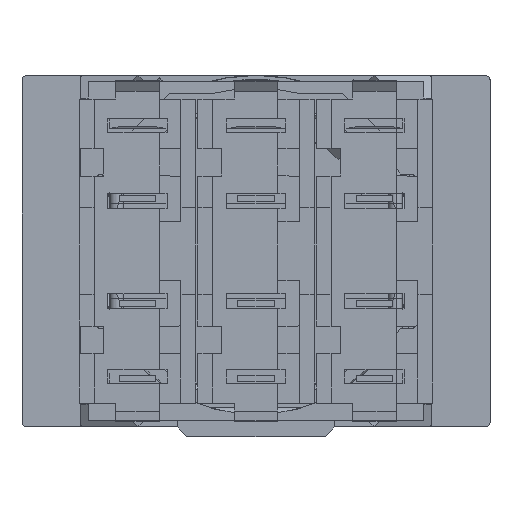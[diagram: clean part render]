
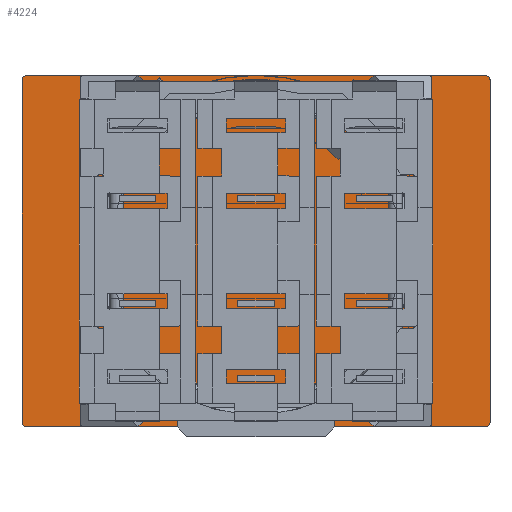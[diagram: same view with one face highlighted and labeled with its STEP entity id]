
A CAD part, front view. The second image highlights one B-rep face of the part: STEP entity #4224.
In plain terms, the highlighted planar face has unit normal (0, -1, 0).
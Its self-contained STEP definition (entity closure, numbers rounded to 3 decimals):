
#360=DIRECTION('',(0.,0.,-1.));
#361=VECTOR('',#360,17.35);
#362=CARTESIAN_POINT('',(-11.85,19.01,8.675));
#363=LINE('',#362,#361);
#376=DIRECTION('',(0.,0.,-1.));
#377=VECTOR('',#376,17.35);
#378=CARTESIAN_POINT('',(11.85,19.01,8.675));
#379=LINE('',#378,#377);
#380=CARTESIAN_POINT('',(11.65,19.01,8.675));
#381=DIRECTION('',(0.,1.,0.));
#382=DIRECTION('',(0.,0.,1.));
#383=AXIS2_PLACEMENT_3D('',#380,#381,#382);
#385=CARTESIAN_POINT('',(11.65,19.01,-8.675));
#386=DIRECTION('',(0.,1.,0.));
#387=DIRECTION('',(1.,0.,0.));
#388=AXIS2_PLACEMENT_3D('',#385,#386,#387);
#390=CARTESIAN_POINT('',(-11.65,19.01,-8.675));
#391=DIRECTION('',(0.,1.,0.));
#392=DIRECTION('',(0.,0.,-1.));
#393=AXIS2_PLACEMENT_3D('',#390,#391,#392);
#395=CARTESIAN_POINT('',(-11.65,19.01,8.675));
#396=DIRECTION('',(0.,1.,0.));
#397=DIRECTION('',(-1.,0.,0.));
#398=AXIS2_PLACEMENT_3D('',#395,#396,#397);
#400=DIRECTION('',(1.,0.,0.));
#401=VECTOR('',#400,23.3);
#402=CARTESIAN_POINT('',(-11.65,19.01,8.875));
#403=LINE('',#402,#401);
#408=DIRECTION('',(1.,0.,0.));
#409=VECTOR('',#408,23.3);
#410=CARTESIAN_POINT('',(-11.65,19.01,-8.875));
#411=LINE('',#410,#409);
#3506=CARTESIAN_POINT('',(11.85,19.01,8.675));
#3508=VERTEX_POINT('',#3506);
#3509=CARTESIAN_POINT('',(11.65,19.01,8.875));
#3510=VERTEX_POINT('',#3509);
#3539=CARTESIAN_POINT('',(-11.85,19.01,8.675));
#3541=VERTEX_POINT('',#3539);
#3543=CARTESIAN_POINT('',(-11.65,19.01,8.875));
#3544=VERTEX_POINT('',#3543);
#3549=CARTESIAN_POINT('',(-11.85,19.01,-8.675));
#3550=VERTEX_POINT('',#3549);
#3551=CARTESIAN_POINT('',(-11.65,19.01,-8.875));
#3552=VERTEX_POINT('',#3551);
#3579=CARTESIAN_POINT('',(11.85,19.01,-8.675));
#3581=VERTEX_POINT('',#3579);
#3583=CARTESIAN_POINT('',(11.65,19.01,-8.875));
#3584=VERTEX_POINT('',#3583);
#4203=CARTESIAN_POINT('',(-11.85,19.01,8.875));
#4204=DIRECTION('',(0.,-1.,0.));
#4205=DIRECTION('',(0.,0.,-1.));
#4206=AXIS2_PLACEMENT_3D('',#4203,#4204,#4205);
#4207=PLANE('',#4206);
#4209=ORIENTED_EDGE('',*,*,#4208,.T.);
#4210=ORIENTED_EDGE('',*,*,#4198,.T.);
#4212=ORIENTED_EDGE('',*,*,#4211,.T.);
#4214=ORIENTED_EDGE('',*,*,#4213,.F.);
#4216=ORIENTED_EDGE('',*,*,#4215,.T.);
#4217=ORIENTED_EDGE('',*,*,#4178,.F.);
#4219=ORIENTED_EDGE('',*,*,#4218,.T.);
#4221=ORIENTED_EDGE('',*,*,#4220,.T.);
#4222=EDGE_LOOP('',(#4209,#4210,#4212,#4214,#4216,#4217,#4219,#4221));
#4223=FACE_OUTER_BOUND('',#4222,.F.);
#4224=ADVANCED_FACE('',(#4223),#4207,.T.);
#384=CIRCLE('',#383,0.2);
#389=CIRCLE('',#388,0.2);
#394=CIRCLE('',#393,0.2);
#399=CIRCLE('',#398,0.2);
#4178=EDGE_CURVE('',#3541,#3550,#363,.T.);
#4198=EDGE_CURVE('',#3508,#3581,#379,.T.);
#4208=EDGE_CURVE('',#3510,#3508,#384,.T.);
#4211=EDGE_CURVE('',#3581,#3584,#389,.T.);
#4213=EDGE_CURVE('',#3552,#3584,#411,.T.);
#4215=EDGE_CURVE('',#3552,#3550,#394,.T.);
#4218=EDGE_CURVE('',#3541,#3544,#399,.T.);
#4220=EDGE_CURVE('',#3544,#3510,#403,.T.);
